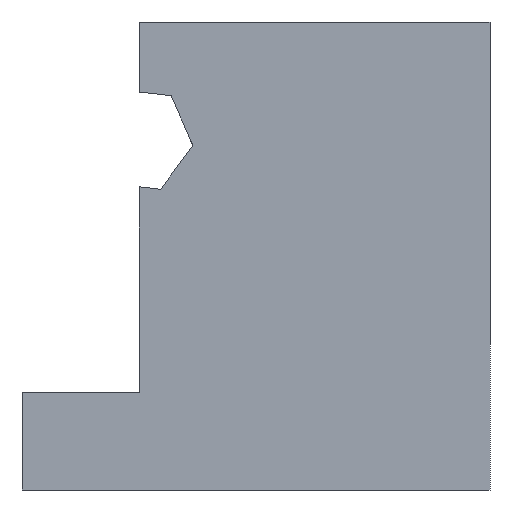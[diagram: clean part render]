
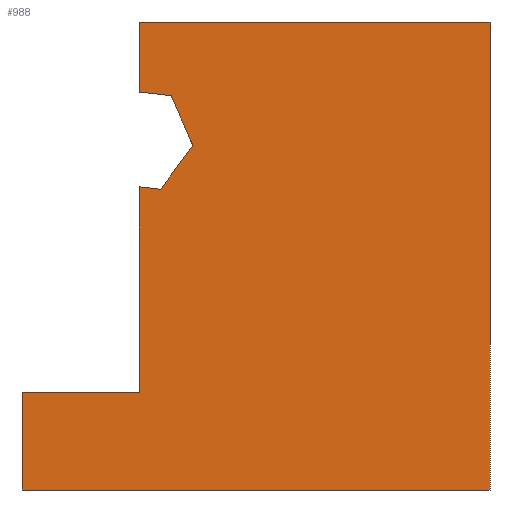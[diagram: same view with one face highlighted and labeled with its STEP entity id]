
A CAD part, left-side view. The second image highlights one B-rep face of the part: STEP entity #988.
In plain terms, the highlighted planar face has unit normal (-1, 0, 0).
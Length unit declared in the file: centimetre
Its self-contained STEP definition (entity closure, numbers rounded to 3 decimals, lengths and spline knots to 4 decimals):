
#1 = VERTEX_POINT ( 'NONE', #143 ) ;
#29 = CARTESIAN_POINT ( 'NONE',  ( 0., 681.3923, 842.7172 ) ) ;
#71 = DIRECTION ( 'NONE',  ( 0., -1., 0. ) ) ;
#90 = EDGE_CURVE ( 'NONE', #839, #227, #1049, .T. ) ;
#94 = EDGE_CURVE ( 'NONE', #1004, #729, #982, .T. ) ;
#112 = EDGE_CURVE ( 'NONE', #1, #262, #463, .T. ) ;
#119 = LINE ( 'NONE', #481, #336 ) ;
#129 = DIRECTION ( 'NONE',  ( 0., -1., 0. ) ) ;
#131 = CARTESIAN_POINT ( 'NONE',  ( 0., 749.4072, 208.0252 ) ) ;
#143 = CARTESIAN_POINT ( 'NONE',  ( 0., 749.4072, 1000. ) ) ;
#145 = EDGE_CURVE ( 'NONE', #206, #309, #383, .T. ) ;
#153 = FACE_OUTER_BOUND ( 'NONE', #440, .T. ) ;
#168 = VERTEX_POINT ( 'NONE', #898 ) ;
#171 = CARTESIAN_POINT ( 'NONE',  ( 0., 1000., 0. ) ) ;
#176 = ORIENTED_EDGE ( 'NONE', *, *, #90, .F. ) ;
#183 = DIRECTION ( 'NONE',  ( 0., 0.994, 0.111 ) ) ;
#206 = VERTEX_POINT ( 'NONE', #621 ) ;
#209 = CARTESIAN_POINT ( 'NONE',  ( 0., 749.4072, 208.0252 ) ) ;
#227 = VERTEX_POINT ( 'NONE', #335 ) ;
#233 = VECTOR ( 'NONE', #467, 100. ) ;
#236 = CARTESIAN_POINT ( 'NONE',  ( 0., 1000., 1000. ) ) ;
#262 = VERTEX_POINT ( 'NONE', #325 ) ;
#309 = VERTEX_POINT ( 'NONE', #171 ) ;
#325 = CARTESIAN_POINT ( 'NONE',  ( 0., 0., 1000. ) ) ;
#327 = DIRECTION ( 'NONE',  ( 0., 0., -1. ) ) ;
#335 = CARTESIAN_POINT ( 'NONE',  ( 0., 749.4072, 647.7701 ) ) ;
#336 = VECTOR ( 'NONE', #129, 100. ) ;
#339 = EDGE_CURVE ( 'NONE', #206, #839, #119, .T. ) ;
#370 = DIRECTION ( 'NONE',  ( 0., -1., 0. ) ) ;
#375 = EDGE_CURVE ( 'NONE', #262, #168, #652, .T. ) ;
#383 = LINE ( 'NONE', #707, #906 ) ;
#403 = DIRECTION ( 'NONE',  ( 0., -0.4, -0.916 ) ) ;
#409 = ORIENTED_EDGE ( 'NONE', *, *, #375, .F. ) ;
#440 = EDGE_LOOP ( 'NONE', ( #704, #464, #176, #716, #497, #447, #409, #877, #767, #1030, #1052 ) ) ;
#447 = ORIENTED_EDGE ( 'NONE', *, *, #1115, .T. ) ;
#454 = VECTOR ( 'NONE', #403, 100. ) ;
#463 = LINE ( 'NONE', #786, #815 ) ;
#464 = ORIENTED_EDGE ( 'NONE', *, *, #860, .T. ) ;
#467 = DIRECTION ( 'NONE',  ( 0., 0., 1. ) ) ;
#468 = DIRECTION ( 'NONE',  ( 0., 0., 1. ) ) ;
#481 = CARTESIAN_POINT ( 'NONE',  ( 0., 749.4072, 208.0252 ) ) ;
#497 = ORIENTED_EDGE ( 'NONE', *, *, #145, .T. ) ;
#498 = PLANE ( 'NONE',  #993 ) ;
#535 = LINE ( 'NONE', #879, #932 ) ;
#551 = CARTESIAN_POINT ( 'NONE',  ( 0., 703.8066, 642.661 ) ) ;
#557 = LINE ( 'NONE', #131, #233 ) ;
#587 = CARTESIAN_POINT ( 'NONE',  ( 0., 1000., 0. ) ) ;
#620 = LINE ( 'NONE', #892, #970 ) ;
#621 = CARTESIAN_POINT ( 'NONE',  ( 0., 1000., 208.0252 ) ) ;
#628 = VECTOR ( 'NONE', #71, 100. ) ;
#629 = CARTESIAN_POINT ( 'NONE',  ( 0., 796.8948, 855.6581 ) ) ;
#631 = DIRECTION ( 'NONE',  ( 0., 0.593, -0.805 ) ) ;
#652 = LINE ( 'NONE', #811, #920 ) ;
#661 = LINE ( 'NONE', #587, #628 ) ;
#677 = CARTESIAN_POINT ( 'NONE',  ( 0., 634.8482, 736.2186 ) ) ;
#698 = DIRECTION ( 'NONE',  ( 0., -0.994, -0.111 ) ) ;
#704 = ORIENTED_EDGE ( 'NONE', *, *, #719, .T. ) ;
#707 = CARTESIAN_POINT ( 'NONE',  ( 0., 1000., 1000. ) ) ;
#716 = ORIENTED_EDGE ( 'NONE', *, *, #339, .F. ) ;
#719 = EDGE_CURVE ( 'NONE', #984, #837, #535, .T. ) ;
#729 = VERTEX_POINT ( 'NONE', #29 ) ;
#767 = ORIENTED_EDGE ( 'NONE', *, *, #867, .F. ) ;
#786 = CARTESIAN_POINT ( 'NONE',  ( 0., 1000., 1000. ) ) ;
#795 = DIRECTION ( 'NONE',  ( 0., 0., -1. ) ) ;
#806 = DIRECTION ( 'NONE',  ( 0., 0., -1. ) ) ;
#811 = CARTESIAN_POINT ( 'NONE',  ( 0., 0., 1000. ) ) ;
#815 = VECTOR ( 'NONE', #370, 100. ) ;
#837 = VERTEX_POINT ( 'NONE', #551 ) ;
#839 = VERTEX_POINT ( 'NONE', #209 ) ;
#860 = EDGE_CURVE ( 'NONE', #837, #227, #620, .T. ) ;
#867 = EDGE_CURVE ( 'NONE', #1004, #1, #557, .T. ) ;
#877 = ORIENTED_EDGE ( 'NONE', *, *, #112, .F. ) ;
#879 = CARTESIAN_POINT ( 'NONE',  ( 0., 634.8482, 736.2186 ) ) ;
#892 = CARTESIAN_POINT ( 'NONE',  ( 0., 703.8066, 642.661 ) ) ;
#893 = CARTESIAN_POINT ( 'NONE',  ( 0., 749.4072, 208.0252 ) ) ;
#898 = CARTESIAN_POINT ( 'NONE',  ( 0., 0., 0. ) ) ;
#906 = VECTOR ( 'NONE', #795, 100. ) ;
#920 = VECTOR ( 'NONE', #806, 100. ) ;
#923 = VECTOR ( 'NONE', #468, 100. ) ;
#932 = VECTOR ( 'NONE', #631, 100. ) ;
#970 = VECTOR ( 'NONE', #183, 100. ) ;
#973 = VECTOR ( 'NONE', #698, 100. ) ;
#982 = LINE ( 'NONE', #629, #973 ) ;
#984 = VERTEX_POINT ( 'NONE', #677 ) ;
#988 = ADVANCED_FACE ( 'NONE', ( #153 ), #498, .F. ) ;
#993 = AXIS2_PLACEMENT_3D ( 'NONE', #236, #1108, #327 ) ;
#1004 = VERTEX_POINT ( 'NONE', #1019 ) ;
#1019 = CARTESIAN_POINT ( 'NONE',  ( 0., 749.4072, 850.3376 ) ) ;
#1030 = ORIENTED_EDGE ( 'NONE', *, *, #94, .T. ) ;
#1047 = EDGE_CURVE ( 'NONE', #729, #984, #1103, .T. ) ;
#1049 = LINE ( 'NONE', #893, #923 ) ;
#1052 = ORIENTED_EDGE ( 'NONE', *, *, #1047, .T. ) ;
#1103 = LINE ( 'NONE', #1105, #454 ) ;
#1105 = CARTESIAN_POINT ( 'NONE',  ( 0., 681.3923, 842.7172 ) ) ;
#1108 = DIRECTION ( 'NONE',  ( 1., 0., 0. ) ) ;
#1115 = EDGE_CURVE ( 'NONE', #309, #168, #661, .T. ) ;
